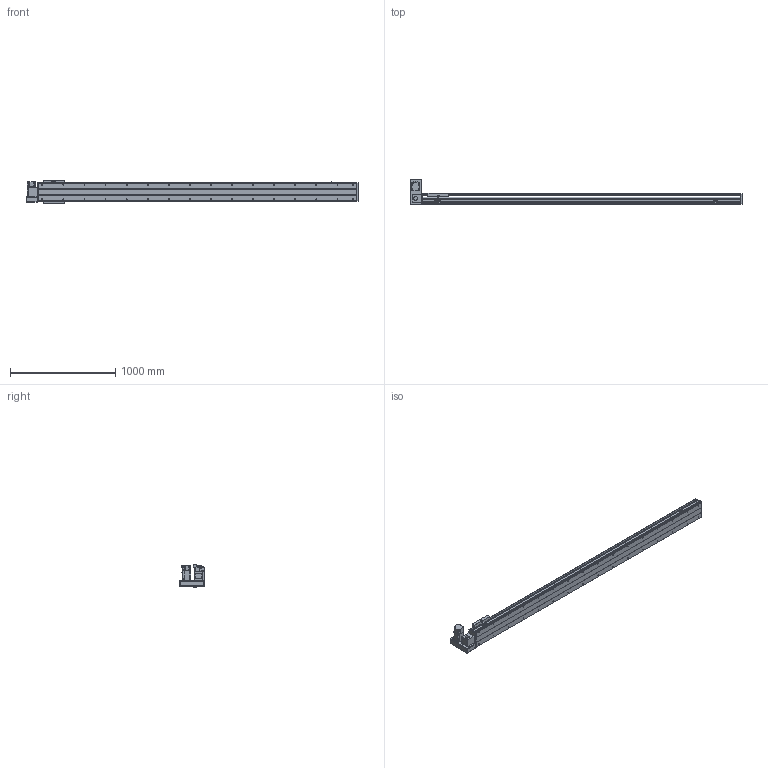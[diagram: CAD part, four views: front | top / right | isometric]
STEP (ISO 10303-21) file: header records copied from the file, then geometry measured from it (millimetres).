
FILE_DESCRIPTION(/* description */ ('STEP AP214'),/* implementation_level */ '2;1');
FILE_NAME(/* name */ 'PBS200-P40-S2650-LU-T75-C1-N(0)',/* time_stamp */ '2022-06-11T09:04:37+02:00',/* author */ ('License CC BY-ND 4.0'),/* organization */ ('CADENAS'),/* preprocessor_version */ 'ST-DEVELOPER v18.102',/* originating_system */ 'PARTsolutions',/* authorisation */ ' ');
FILE_SCHEMA (('AUTOMOTIVE_DESIGN {1 0 10303 214 3 1 1}'));
Length unit declared in the file: millimetre
Products named in the file (7): PBS200-P40-S2650-LU-T75-C1-N(0); PBS200_sensor; PBS200_plant; PBS200_sliser; T75-p1; PBS200T-LU_motors; PBS200-S2650()_body
Assembly tree (8 placements, depth 2):
  PBS200-P40-S2650-LU-T75-C1-N(0)
    PBS200_sensor  x3
    PBS200_plant
    PBS200_sliser
    T75-p1
    PBS200T-LU_motors
    PBS200-S2650()_body
Bounding box: 3150 x 231 x 221 mm (x, y, z)
Volume: 21540713.5 mm3; surface area: 3443954.3 mm2
Topology: 8 solids, 8 shells, 968 faces, 2454 edges, 1596 vertices
Faces by surface type: plane 590, cylinder 314, cone 64
Full cylindrical faces by diameter (mm): 2.459 x6, 3.242 x4, 4.5 x6, 4.917 x4, 5 x6, 6 x7, 6.6 x8, 6.647 x36, 8 x6, 10 x4, 12 x8, 38 x2, 40 x1, 70 x1
Entity records: 25541 total; most frequent: DIRECTION 4519, CARTESIAN_POINT 4336, ORIENTED_EDGE 4078, EDGE_CURVE 2039, AXIS2_PLACEMENT_3D 1603, VERTEX_POINT 1420, LINE 1313, VECTOR 1313
